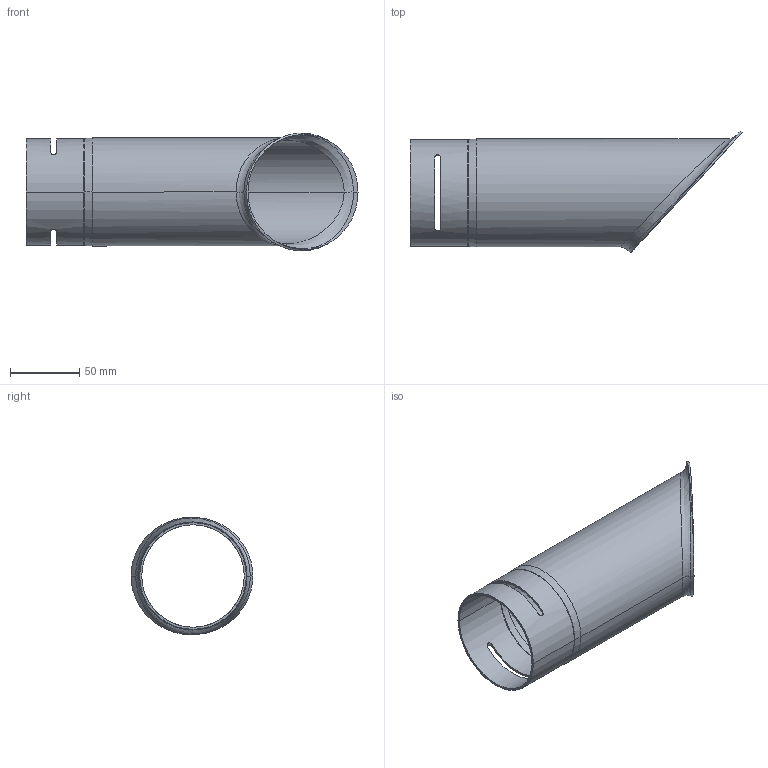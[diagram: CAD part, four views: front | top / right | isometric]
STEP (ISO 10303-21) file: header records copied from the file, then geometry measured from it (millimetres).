
FILE_DESCRIPTION((''),'2;1');
FILE_NAME('MES300-75','2015-12-08T',('Tomas Bellgran'),(''),'PRO/ENGINEER BY PARAMETRIC TECHNOLOGY CORPORATION, 2013410','PRO/ENGINEER BY PARAMETRIC TECHNOLOGY CORPORATION, 2013410','');
FILE_SCHEMA(('AUTOMOTIVE_DESIGN { 1 0 10303 214 1 1 1 1 }'));
Length unit declared in the file: millimetre
Products named in the file (1): MES300-75
Bounding box: 239.72 x 87.9 x 84.91 mm (x, y, z)
Volume: 71607.7 mm3; surface area: 96726.3 mm2
Topology: 1 solids, 1 shells, 35 faces, 78 edges, 44 vertices
Faces by surface type: bspline 14, cylinder 12, plane 5, torus 4
Entity records: 3176 total; most frequent: CARTESIAN_POINT 1913, ORIENTED_EDGE 156, DIRECTION 132, PRESENTATION_STYLE_ASSIGNMENT 79, STYLED_ITEM 79, CURVE_STYLE 78, EDGE_CURVE 78, AXIS2_PLACEMENT_3D 55
